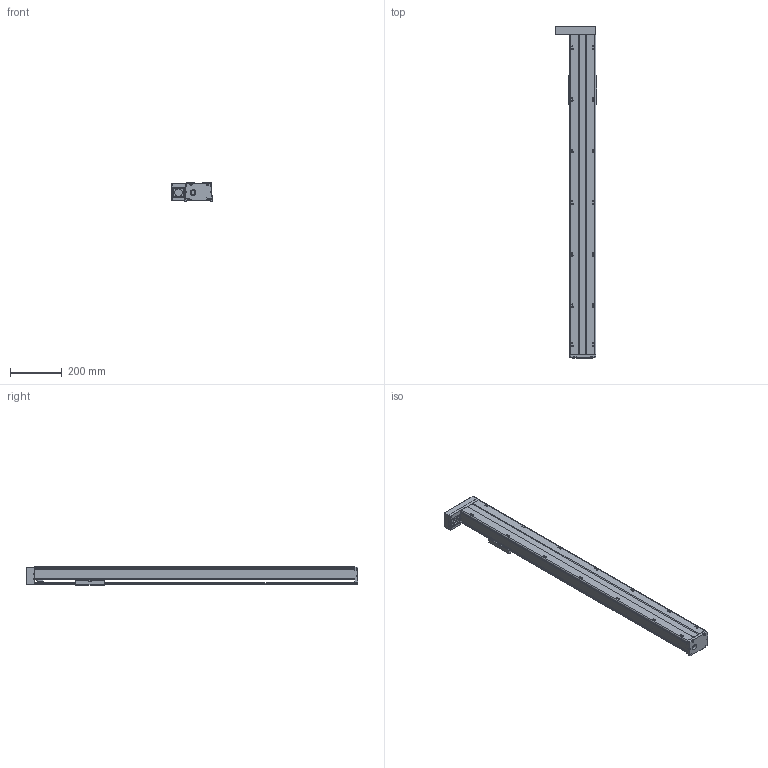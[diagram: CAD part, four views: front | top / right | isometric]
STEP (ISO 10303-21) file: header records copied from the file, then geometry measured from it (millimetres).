
FILE_DESCRIPTION(/* description */ (''),/* implementation_level */ '2;1');
FILE_NAME(/* name */ 'TKA100-FL-1050_asm1.stp',/* time_stamp */ '2016-08-25T15:16:54+08:00',/* author */ (''),/* organization */ (''),/* preprocessor_version */ 'ST-DEVELOPER v15',/* originating_system */ 'SIEMENS PLM Software NX 8.5',/* authorisation */ '');
FILE_SCHEMA (('AUTOMOTIVE_DESIGN { 1 0 10303 214 3 1 1 1 }'));
Length unit declared in the file: millimetre
Products named in the file (3): 200-2; 200-1; TKA100-FL-1050_asm1
Assembly tree (2 placements, depth 2):
  TKA100-FL-1050_asm1
    200-1
    200-2
Bounding box: 162 x 1286 x 71 mm (x, y, z)
Volume: 2620686.1 mm3; surface area: 890962.9 mm2
Topology: 2 solids, 16 shells, 808 faces, 2114 edges, 1374 vertices
Faces by surface type: plane 319, cylinder 310, cone 125, torus 28, bspline 26
Full cylindrical faces by diameter (mm): 2.5 x6, 2.6 x8, 3.3 x11, 3.4 x4, 3.8 x8, 4.2 x23, 4.3 x4, 4.5 x10, 5 x2, 5.5 x22, 6.6 x4, 8 x4, 9 x6, 10 x8, 11 x4, 12 x6, 15.3 x1, 16 x1, 22 x1, 24 x1, 28 x2, 30 x1, 33 x1
Entity records: 29710 total; most frequent: CARTESIAN_POINT 10892, DIRECTION 3853, ORIENTED_EDGE 3648, EDGE_CURVE 1824, AXIS2_PLACEMENT_3D 1523, VERTEX_POINT 1300, EDGE_LOOP 1129, ADVANCED_FACE 808
